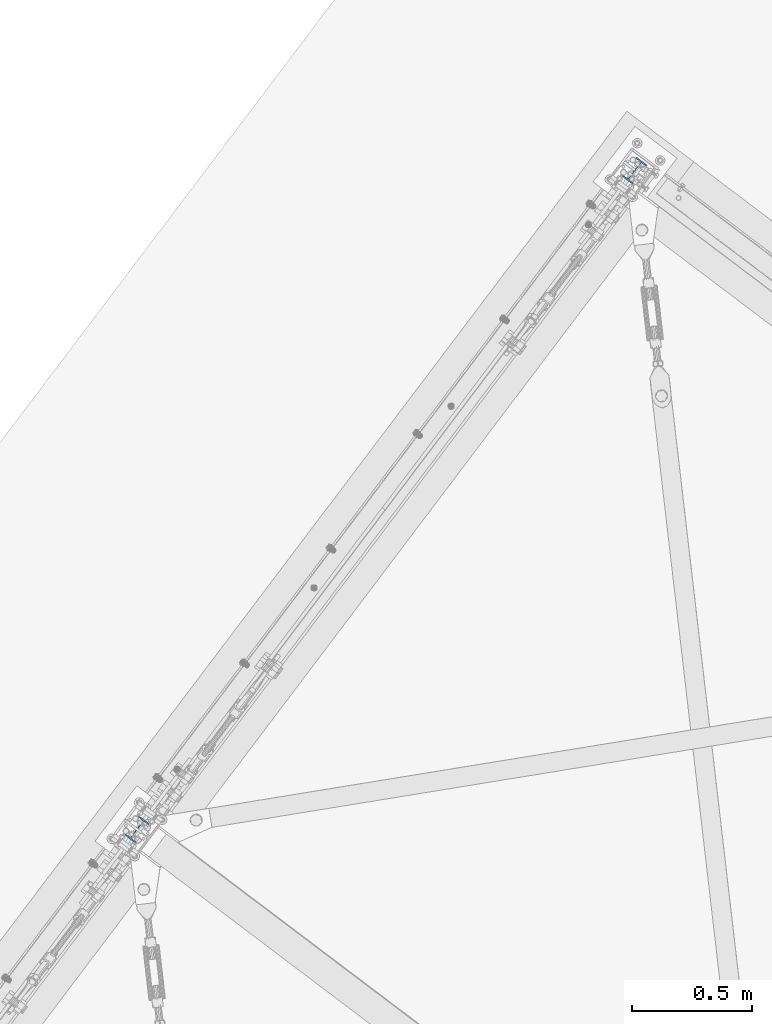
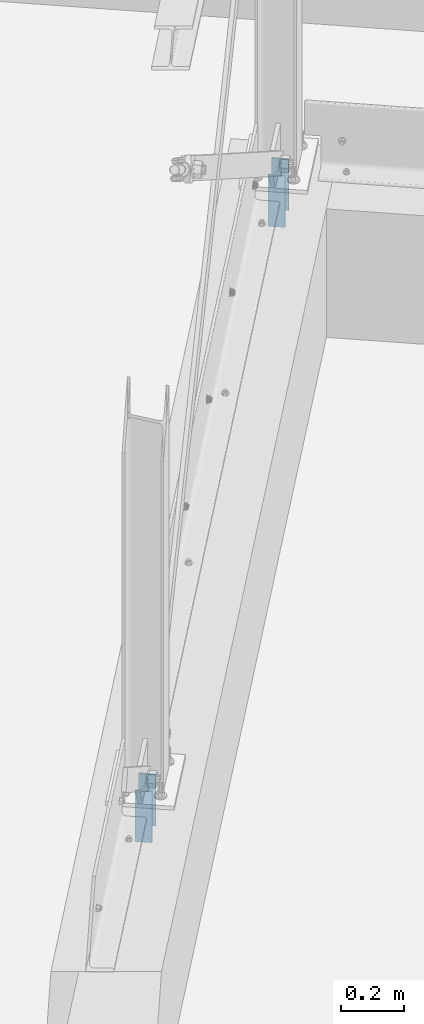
# One storey, part 11 of 476: 2 columns, 4 openings.
"""IFC2X3 building model written with IfcOpenShell, lengths in millimetres."""

from ifc_helpers import new_model, entity, si_unit, converted_unit, frame, origin, origin_with_axes, origin_2d, origin_2d_with_axis, place, context, project, spatial, circle, i_section, extrude, material, element, save


model = new_model("IFC2X3")

# Units and contexts
model_context = context("Model", 3, precision=1e-09, world=origin_with_axes())
ifc_project = project(units=[si_unit("LENGTHUNIT", "METRE", prefix="MILLI"), si_unit("AREAUNIT", "SQUARE_METRE"), si_unit("VOLUMEUNIT", "CUBIC_METRE"), converted_unit("PLANEANGLEUNIT", "DEGREE", entity("IfcPlaneAngleMeasure", 0.01745329), si_unit("PLANEANGLEUNIT", "RADIAN"), dimensions=[0, 0, 0, 0, 0, 0, 0])], contexts=[model_context])

# Site, building, storey
site_placement = place(None, origin_with_axes())
site = spatial("IfcSite", under=ifc_project, at=site_placement, Name="mKR Teilneubau & Sanierung BA1 - Ostfildern", CompositionType="ELEMENT")
building_placement = place(site_placement, origin_with_axes())
building = spatial("IfcBuilding", under=site, at=building_placement, Name="Struktur 1", CompositionType="ELEMENT")
storey_placement = place(building_placement, origin_with_axes())
storey = spatial("IfcBuildingStorey", under=building, at=storey_placement, Name="Default Storey", CompositionType="ELEMENT", Elevation=0.0)

# Column, openings
ifc_material = material(Name="S235JR")
column_1_placement = place(None, frame((8560.762005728, 11042.950716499, 530.0), z_axis=(0.0, 0.0, 1.0), x_axis=(-0.797941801, 0.602734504, 0.0)))
column_1 = element("IfcColumn", 1, at=column_1_placement, inside=storey, material=ifc_material, Name="AnchorBeam", ObjectType="AnchorBeam", context=model_context, shape_type="SweptSolid", body=[
    extrude(i_section(OverallWidth=55.0, OverallDepth=100.0, WebThickness=4.1, FlangeThickness=5.7, FilletRadius=7.0, at=origin_2d()), origin(), (0.0, 0.0, -1.0), 200.0),
])
opening_1_placement = place(column_1_placement, frame((-2.55, 29.0, -15.0), z_axis=(1.0, 0.0, 0.0), x_axis=(0.0, 0.0, -1.0)))
element("IfcOpeningElement", 2, at=opening_1_placement, cuts=column_1, ObjectType="Opening", context=model_context, shape_type="SweptSolid", body=[
    extrude(circle(Radius=6.001, at=origin_2d_with_axis()), origin(), (0.0, 0.0, 1.0), 5.1),
])
opening_2_placement = place(column_1_placement, frame((-2.55, -29.0, -15.0), z_axis=(1.0, 0.0, 0.0), x_axis=(0.0, 0.0, -1.0)))
element("IfcOpeningElement", 3, at=opening_2_placement, cuts=column_1, ObjectType="Opening", context=model_context, shape_type="SweptSolid", body=[
    extrude(circle(Radius=6.001, at=origin_2d_with_axis()), origin(), (0.0, 0.0, 1.0), 5.1),
])

column_2_placement = place(None, frame((6483.437520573, 8292.84431249, 530.0), z_axis=(0.0, 0.0, 1.0), x_axis=(-0.797941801, 0.602734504, 0.0)))
column_2 = element("IfcColumn", 4, at=column_2_placement, inside=storey, material=ifc_material, Name="AnchorBeam", ObjectType="AnchorBeam", context=model_context, shape_type="SweptSolid", body=[
    extrude(i_section(OverallWidth=55.0, OverallDepth=100.0, WebThickness=4.1, FlangeThickness=5.7, FilletRadius=7.0, at=origin_2d()), origin(), (0.0, 0.0, -1.0), 200.0),
])
opening_3_placement = place(column_2_placement, frame((-2.55, 29.0, -15.0), z_axis=(1.0, 0.0, 0.0), x_axis=(0.0, 0.0, -1.0)))
element("IfcOpeningElement", 5, at=opening_3_placement, cuts=column_2, ObjectType="Opening", context=model_context, shape_type="SweptSolid", body=[
    extrude(circle(Radius=6.001, at=origin_2d_with_axis()), origin(), (0.0, 0.0, 1.0), 5.1),
])
opening_4_placement = place(column_2_placement, frame((-2.55, -29.0, -15.0), z_axis=(1.0, 0.0, 0.0), x_axis=(0.0, 0.0, -1.0)))
element("IfcOpeningElement", 6, at=opening_4_placement, cuts=column_2, ObjectType="Opening", context=model_context, shape_type="SweptSolid", body=[
    extrude(circle(Radius=6.001, at=origin_2d_with_axis()), origin(), (0.0, 0.0, 1.0), 5.1),
])

save(model, "model.ifc")
